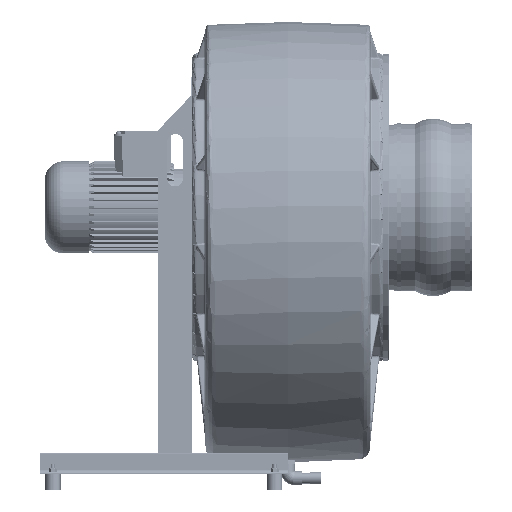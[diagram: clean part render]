
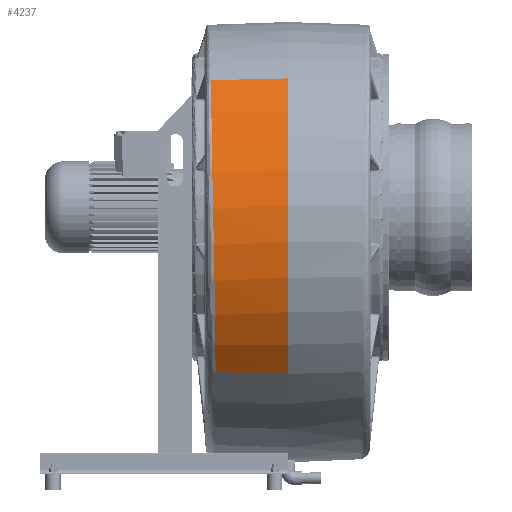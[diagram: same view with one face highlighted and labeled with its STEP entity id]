
A CAD part, left-side view. The second image highlights one B-rep face of the part: STEP entity #4237.
In plain terms, the highlighted face is a revolution surface.
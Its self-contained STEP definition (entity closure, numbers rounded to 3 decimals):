
#4237 = ADVANCED_FACE( '', ( #10416 ), #10417, .F. );
#10416 = FACE_OUTER_BOUND( '', #21922, .T. );
#10417 = SURFACE_OF_REVOLUTION( '', #21923, #21924 );
#21922 = EDGE_LOOP( '', ( #89822, #89823, #89824, #89825 ) );
#21923 = B_SPLINE_CURVE_WITH_KNOTS( '', 1, ( #89826, #89827 ), .UNSPECIFIED., .F., .F., ( 2, 2 ), ( 0., 1. ), .UNSPECIFIED. );
#21924 = AXIS1_PLACEMENT( '', #89828, #89829 );
#89822 = ORIENTED_EDGE( '', *, *, #122027, .F. );
#89823 = ORIENTED_EDGE( '', *, *, #122028, .T. );
#89824 = ORIENTED_EDGE( '', *, *, #122029, .F. );
#89825 = ORIENTED_EDGE( '', *, *, #122030, .F. );
#89826 = CARTESIAN_POINT( '', ( 0., -272.837, -317.921 ) );
#89827 = CARTESIAN_POINT( '', ( -157.5, -269.061, -313.923 ) );
#89828 = CARTESIAN_POINT( '', ( -78.75, 33.18, -33.179 ) );
#89829 = DIRECTION( '', ( 1., 0., 0. ) );
#122027 = EDGE_CURVE( '', #130322, #130323, #130324, .T. );
#122028 = EDGE_CURVE( '', #130322, #130325, #130326, .F. );
#122029 = EDGE_CURVE( '', #130327, #130325, #130328, .F. );
#122030 = EDGE_CURVE( '', #130323, #130327, #130329, .F. );
#130322 = VERTEX_POINT( '', #144262 );
#130323 = VERTEX_POINT( '', #144263 );
#130324 = CIRCLE( '', #144264, 418. );
#130325 = VERTEX_POINT( '', #144265 );
#130326 = B_SPLINE_CURVE_WITH_KNOTS( '', 1, ( #144266, #144267 ), .UNSPECIFIED., .F., .F., ( 2, 2 ), ( 0.069, 1. ), .UNSPECIFIED. );
#130327 = VERTEX_POINT( '', #144268 );
#130328 = B_SPLINE_CURVE_WITH_KNOTS( '', 3, ( #144269, #144270, #144271, #144272, #144273, #144274, #144275, #144276, #144277, #144278, #144279, #144280, #144281, #144282, #144283, #144284, #144285, #144286, #144287, #144288, #144289, #144290, #144291, #144292, #144293, #144294, #144295, #144296, #144297, #144298, #144299, #144300, #144301, #144302, #144303, #144304, #144305, #144306, #144307, #144308, #144309, #144310, #144311, #144312 ), .UNSPECIFIED., .F., .F., ( 4, 2, 2, 2, 2, 2, 2, 2, 2, 2, 2, 2, 2, 2, 2, 2, 2, 2, 2, 2, 2, 4 ), ( 0., 0.031, 0.047, 0.055, 0.063, 0.125, 0.188, 0.25, 0.313, 0.375, 0.438, 0.5, 0.563, 0.625, 0.688, 0.75, 0.813, 0.875, 0.906, 0.922, 0.938, 1. ), .UNSPECIFIED. );
#130329 = B_SPLINE_CURVE_WITH_KNOTS( '', 1, ( #144313, #144314 ), .UNSPECIFIED., .F., .F., ( 2, 2 ), ( 0.122, 1. ), .UNSPECIFIED. );
#144262 = CARTESIAN_POINT( '', ( 0., -384.809, -36.301 ) );
#144263 = CARTESIAN_POINT( '', ( 0., 0., -449.861 ) );
#144264 = AXIS2_PLACEMENT_3D( '', #176133, #176134, #176135 );
#144265 = CARTESIAN_POINT( '', ( -146.595, -379.703, -35.932 ) );
#144266 = CARTESIAN_POINT( '', ( -146.595, -379.703, -35.932 ) );
#144267 = CARTESIAN_POINT( '', ( 0., -384.809, -36.301 ) );
#144268 = CARTESIAN_POINT( '', ( -138.271, 0.072, -445.033 ) );
#144269 = CARTESIAN_POINT( '', ( -146.595, -379.703, -35.932 ) );
#144270 = CARTESIAN_POINT( '', ( -146.595, -379.66, -42.314 ) );
#144271 = CARTESIAN_POINT( '', ( -146.586, -379.47, -48.69 ) );
#144272 = CARTESIAN_POINT( '', ( -146.563, -378.964, -58.246 ) );
#144273 = CARTESIAN_POINT( '', ( -146.553, -378.758, -61.43 ) );
#144274 = CARTESIAN_POINT( '', ( -146.536, -378.394, -66.204 ) );
#144275 = CARTESIAN_POINT( '', ( -146.529, -378.264, -67.795 ) );
#144276 = CARTESIAN_POINT( '', ( -146.516, -377.984, -70.977 ) );
#144277 = CARTESIAN_POINT( '', ( -146.509, -377.835, -72.569 ) );
#144278 = CARTESIAN_POINT( '', ( -146.44, -376.411, -86.869 ) );
#144279 = CARTESIAN_POINT( '', ( -146.351, -374.561, -99.493 ) );
#144280 = CARTESIAN_POINT( '', ( -146.123, -369.689, -124.573 ) );
#144281 = CARTESIAN_POINT( '', ( -145.985, -366.679, -136.973 ) );
#144282 = CARTESIAN_POINT( '', ( -145.668, -359.509, -161.496 ) );
#144283 = CARTESIAN_POINT( '', ( -145.489, -355.365, -173.564 ) );
#144284 = CARTESIAN_POINT( '', ( -145.099, -345.956, -197.32 ) );
#144285 = CARTESIAN_POINT( '', ( -144.888, -340.713, -208.954 ) );
#144286 = CARTESIAN_POINT( '', ( -144.441, -329.145, -231.738 ) );
#144287 = CARTESIAN_POINT( '', ( -144.205, -322.847, -242.837 ) );
#144288 = CARTESIAN_POINT( '', ( -143.717, -309.22, -264.454 ) );
#144289 = CARTESIAN_POINT( '', ( -143.465, -301.922, -274.923 ) );
#144290 = CARTESIAN_POINT( '', ( -142.953, -286.35, -295.187 ) );
#144291 = CARTESIAN_POINT( '', ( -142.693, -278.113, -304.936 ) );
#144292 = CARTESIAN_POINT( '', ( -142.173, -260.732, -323.673 ) );
#144293 = CARTESIAN_POINT( '', ( -141.913, -251.626, -332.617 ) );
#144294 = CARTESIAN_POINT( '', ( -141.401, -232.583, -349.665 ) );
#144295 = CARTESIAN_POINT( '', ( -141.149, -222.688, -357.728 ) );
#144296 = CARTESIAN_POINT( '', ( -140.661, -202.145, -372.938 ) );
#144297 = CARTESIAN_POINT( '', ( -140.425, -191.545, -380.05 ) );
#144298 = CARTESIAN_POINT( '', ( -139.978, -169.679, -393.293 ) );
#144299 = CARTESIAN_POINT( '', ( -139.767, -158.465, -399.392 ) );
#144300 = CARTESIAN_POINT( '', ( -139.377, -135.465, -410.551 ) );
#144301 = CARTESIAN_POINT( '', ( -139.198, -123.733, -415.585 ) );
#144302 = CARTESIAN_POINT( '', ( -138.881, -99.797, -424.564 ) );
#144303 = CARTESIAN_POINT( '', ( -138.743, -87.648, -428.489 ) );
#144304 = CARTESIAN_POINT( '', ( -138.572, -69.148, -433.53 ) );
#144305 = CARTESIAN_POINT( '', ( -138.521, -62.95, -435.065 ) );
#144306 = CARTESIAN_POINT( '', ( -138.455, -53.604, -437.151 ) );
#144307 = CARTESIAN_POINT( '', ( -138.435, -50.48, -437.81 ) );
#144308 = CARTESIAN_POINT( '', ( -138.397, -44.217, -439.056 ) );
#144309 = CARTESIAN_POINT( '', ( -138.38, -41.079, -439.642 ) );
#144310 = CARTESIAN_POINT( '', ( -138.304, -25.328, -442.397 ) );
#144311 = CARTESIAN_POINT( '', ( -138.272, -12.666, -444.009 ) );
#144312 = CARTESIAN_POINT( '', ( -138.272, 0.072, -445.033 ) );
#144313 = CARTESIAN_POINT( '', ( -138.271, 0.072, -445.033 ) );
#144314 = CARTESIAN_POINT( '', ( 0., 0., -449.861 ) );
#176133 = CARTESIAN_POINT( '', ( 0., 33.18, -33.179 ) );
#176134 = DIRECTION( '', ( 1., 0., 0. ) );
#176135 = DIRECTION( '', ( 0., 0., -1. ) );
